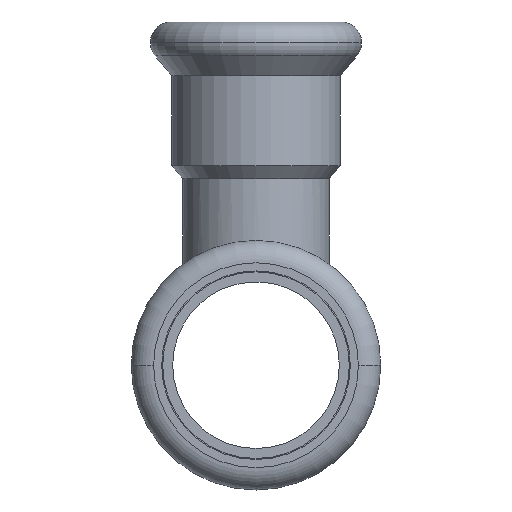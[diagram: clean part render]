
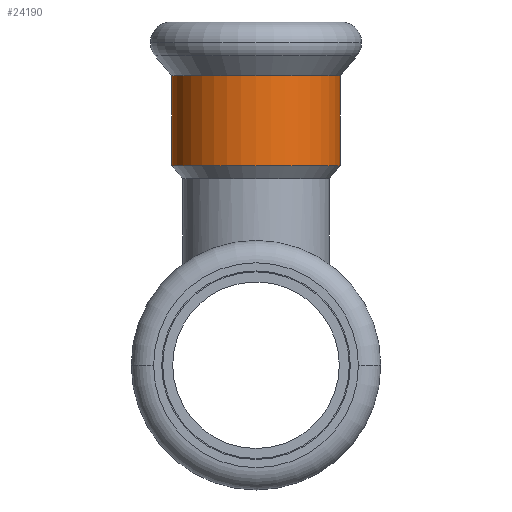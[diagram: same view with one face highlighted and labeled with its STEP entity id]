
A CAD part, front view. The second image highlights one B-rep face of the part: STEP entity #24190.
In plain terms, the highlighted cylindrical face has radius 12.65 mm (diameter 25.3 mm), a partial arc.
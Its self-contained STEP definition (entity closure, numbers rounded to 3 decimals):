
#1380=CARTESIAN_POINT('',(-306.641,56.893,0.));
#1390=VERTEX_POINT('',#1380);
#1570=CARTESIAN_POINT('',(-331.941,56.893,
0.));
#1580=VERTEX_POINT('',#1570);
#1610=CARTESIAN_POINT('',(-319.291,56.893,0.));
#1620=DIRECTION('',(0.,1.,0.));
#1630=DIRECTION('',(-1.,0.,0.));
#1640=AXIS2_PLACEMENT_3D('',#1610,#1620,#1630);
#1650=CIRCLE('',#1640,12.65);
#1710=CARTESIAN_POINT('',(-319.291,50.141,0.));
#1720=DIRECTION('',(0.,-1.,0.));
#1730=DIRECTION('',(-1.,0.,0.));
#1740=AXIS2_PLACEMENT_3D('',#1710,#1720,#1730);
#1750=CYLINDRICAL_SURFACE('',#1740,12.65);
#1760=CARTESIAN_POINT('',(-306.641,50.141,
0.));
#1770=DIRECTION('',(0.,-1.,0.));
#1780=VECTOR('',#1770,1.);
#1790=LINE('',#1760,#1780);
#1800=CARTESIAN_POINT('',(-306.641,43.401,
0.));
#1810=VERTEX_POINT('',#1800);
#1820=EDGE_CURVE('',#1390,#1810,#1790,.T.);
#1850=CARTESIAN_POINT('',(-331.941,50.141,0.));
#1860=DIRECTION('',(0.,-1.,0.));
#1870=VECTOR('',#1860,1.);
#1880=LINE('',#1850,#1870);
#1890=CARTESIAN_POINT('',(-331.941,43.401,0.));
#1900=VERTEX_POINT('',#1890);
#1910=EDGE_CURVE('',#1580,#1900,#1880,.T.);
#1930=CARTESIAN_POINT('',(-319.291,43.401,0.));
#1940=DIRECTION('',(0.,1.,0.));
#1950=DIRECTION('',(-1.,0.,0.));
#1960=AXIS2_PLACEMENT_3D('',#1930,#1940,#1950);
#1970=CIRCLE('',#1960,12.65);
#23140=EDGE_CURVE('',#1580,#1390,#1650,.T.);
#23470=EDGE_CURVE('',#1900,#1810,#1970,.T.);
#24130=ORIENTED_EDGE('',*,*,#23140,.F.);
#24140=ORIENTED_EDGE('',*,*,#1820,.F.);
#24150=ORIENTED_EDGE('',*,*,#23470,.T.);
#24160=ORIENTED_EDGE('',*,*,#1910,.T.);
#24170=EDGE_LOOP('',(#24160,#24150,#24140,#24130));
#24180=FACE_OUTER_BOUND('',#24170,.T.);
#24190=ADVANCED_FACE('',(#24180),#1750,.T.);
